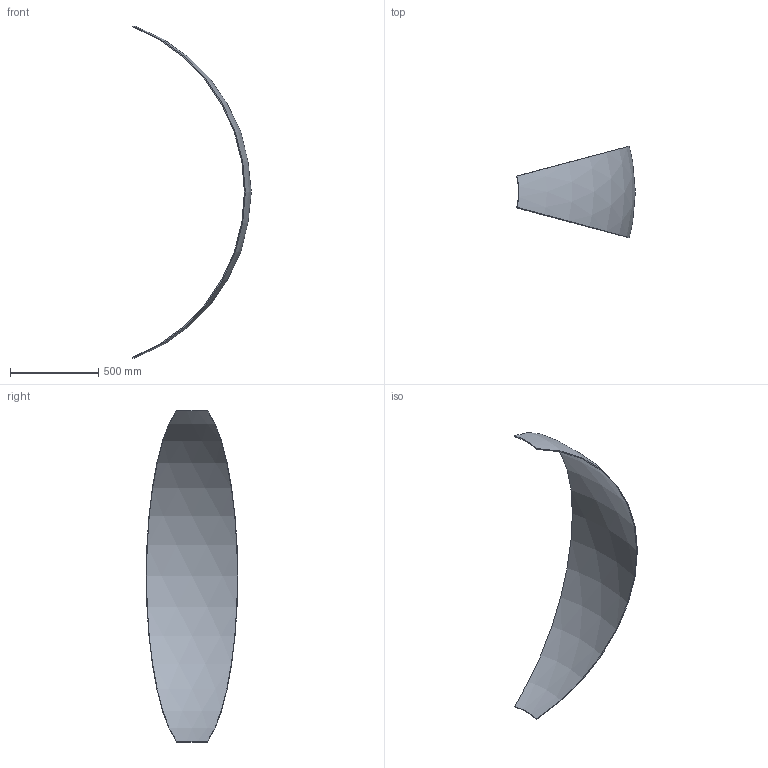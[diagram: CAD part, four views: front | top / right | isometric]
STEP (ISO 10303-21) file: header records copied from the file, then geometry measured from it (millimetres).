
FILE_DESCRIPTION(('Open CASCADE Model'),'2;1');
FILE_NAME('Open CASCADE Shape Model','2026-09-07T11:14:05',('Author'),( 'Open CASCADE'),'Open CASCADE STEP processor 7.9','Open CASCADE 7.9' ,'Unknown');
FILE_SCHEMA(('AUTOMOTIVE_DESIGN { 1 0 10303 214 1 1 1 1 }'));
Length unit declared in the file: millimetre
Products named in the file (1): Open CASCADE STEP translator 7.9 1
Bounding box: 671.29 x 517.64 x 1879.39 mm (x, y, z)
Volume: 4895659 mm3; surface area: 1984431.6 mm2
Topology: 1 solids, 1 shells, 6 faces, 12 edges, 8 vertices
Faces by surface type: sphere 2, cone 2, plane 2
Entity records: 336 total; most frequent: CARTESIAN_POINT 63, DIRECTION 56, ORIENTED_EDGE 24, PCURVE 24, DEFINITIONAL_REPRESENTATION 24, LINE 24, VECTOR 24, AXIS2_PLACEMENT_3D 15
